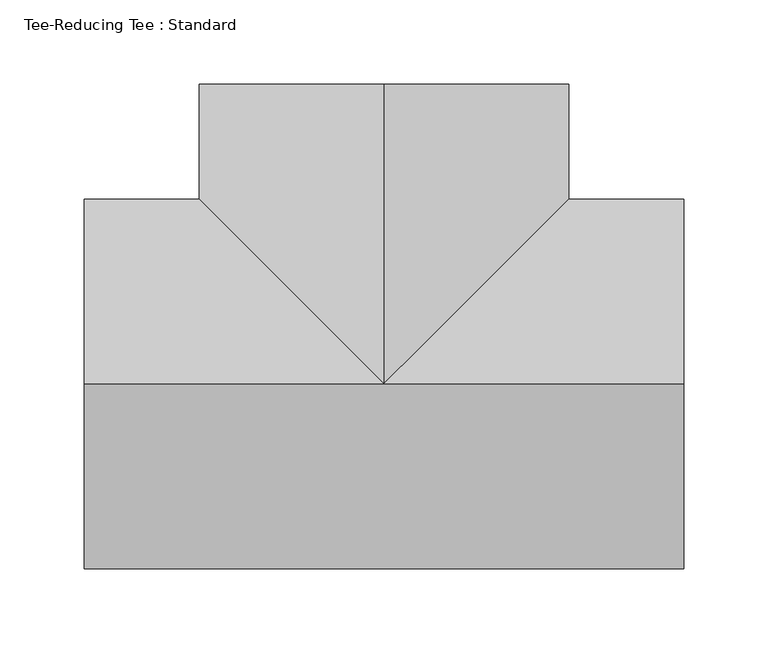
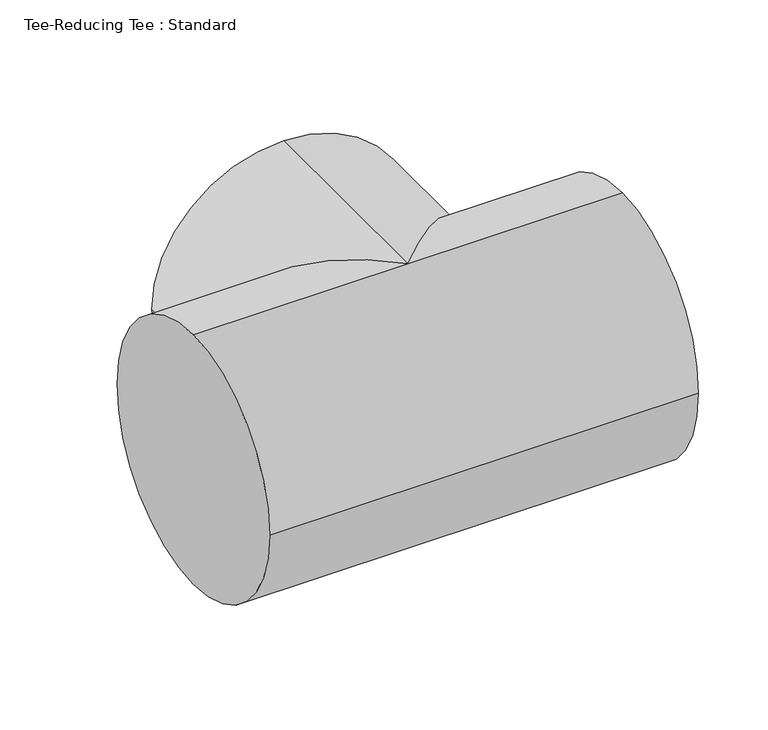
"""IFC4 building model written with IfcOpenShell, lengths in millimetres: pipe fitting geometry, Tee-Reducing Tee : Standard."""

from ifc_helpers import new_model, si_unit, frame, origin, place, context, project, spatial, circle_curve, ellipse_curve, source, transform, mapped, element, save
from ifc_brep_helpers import plane_surface, cylinder_surface, advanced_brep


def tee_reducing_tee_standard_f879563b(model_context):
    return source(origin(), model_context, "Body", "AdvancedBrep", [
        advanced_brep(
        [(-155.7746149, 0.0, 109.5375), (-155.7746149, 109.5375, 0.0), (-155.7746149, 0.0, -109.5375), (-155.7746149, -109.5375, 0.0), (199.8253851, 0.0, 109.5375), (199.8253851, -109.5375, 0.0), (199.8253851, 0.0, -109.5375), (199.8253851, 109.5375, 0.0), (22.0253851, 0.0, 109.5375), (-87.5121149, 109.5375, 0.0), (131.5628851, 109.5375, 0.0), (22.0253851, 0.0, -109.5375), (22.0253851, 177.8, 109.5375), (131.5628851, 177.8, 0.0), (22.0253851, 177.8, -109.5375), (-87.5121149, 177.8, 0.0)],
        [
            (0, 1, circle_curve(frame((-155.7746149, 0.0, 0.0), z_axis=(-1.0, 0.0, 0.0), x_axis=(0.0, 1.0, 0.0)), 109.5375)),
            (1, 2, circle_curve(frame((-155.7746149, 0.0, 0.0), z_axis=(-1.0, 0.0, 0.0), x_axis=(0.0, 1.0, 0.0)), 109.5375)),
            (2, 3, circle_curve(frame((-155.7746149, 0.0, 0.0), z_axis=(-1.0, 0.0, 0.0), x_axis=(0.0, 1.0, 0.0)), 109.5375)),
            (3, 0, circle_curve(frame((-155.7746149, 0.0, 0.0), z_axis=(-1.0, 0.0, 0.0), x_axis=(0.0, 1.0, 0.0)), 109.5375)),
            (4, 5, circle_curve(frame((199.8253851, 0.0, 0.0), z_axis=(1.0, 0.0, 0.0), x_axis=(0.0, 1.0, 0.0)), 109.5375)),
            (5, 6, circle_curve(frame((199.8253851, 0.0, 0.0), z_axis=(1.0, 0.0, 0.0), x_axis=(0.0, 1.0, 0.0)), 109.5375)),
            (6, 7, circle_curve(frame((199.8253851, 0.0, 0.0), z_axis=(1.0, 0.0, 0.0), x_axis=(0.0, 1.0, 0.0)), 109.5375)),
            (7, 4, circle_curve(frame((199.8253851, 0.0, 0.0), z_axis=(1.0, 0.0, 0.0), x_axis=(0.0, 1.0, 0.0)), 109.5375)),
            (0, 8),
            (8, 9, ellipse_curve(frame((22.0253851, 0.0, 0.0), z_axis=(-0.7071067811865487, -0.7071067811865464, 0.0), x_axis=(-0.7071067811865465, 0.7071067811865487, 0.0)), 154.9094181, 109.5375)),
            (9, 1),
            (7, 10),
            (10, 8, ellipse_curve(frame((22.0253851, 0.0, 0.0), z_axis=(0.7071067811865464, -0.7071067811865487, 0.0), x_axis=(-0.7071067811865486, -0.7071067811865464, 0.0)), 154.9094181, 109.5375)),
            (8, 4),
            (9, 11, ellipse_curve(frame((22.0253851, 0.0, 0.0), z_axis=(-0.7071067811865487, -0.7071067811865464, 0.0), x_axis=(-0.7071067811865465, 0.7071067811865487, 0.0)), 154.9094181, 109.5375)),
            (11, 2),
            (6, 11),
            (11, 10, ellipse_curve(frame((22.0253851, 0.0, 0.0), z_axis=(0.7071067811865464, -0.7071067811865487, 0.0), x_axis=(-0.7071067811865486, -0.7071067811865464, 0.0)), 154.9094181, 109.5375)),
            (5, 3),
            (12, 13, circle_curve(frame((22.0253851, 177.8, 0.0), z_axis=(0.0, 1.0, 0.0), x_axis=(-1.0, 0.0, 0.0)), 109.5375)),
            (13, 14, circle_curve(frame((22.0253851, 177.8, 0.0), z_axis=(0.0, 1.0, 0.0), x_axis=(-1.0, 0.0, 0.0)), 109.5375)),
            (14, 15, circle_curve(frame((22.0253851, 177.8, 0.0), z_axis=(0.0, 1.0, 0.0), x_axis=(-1.0, 0.0, 0.0)), 109.5375)),
            (15, 12, circle_curve(frame((22.0253851, 177.8, 0.0), z_axis=(0.0, 1.0, 0.0), x_axis=(-1.0, 0.0, 0.0)), 109.5375)),
            (15, 9),
            (8, 12),
            (14, 11),
            (13, 10),
        ],
        [
            plane_surface(frame((-155.7746149, 0.0, 0.0), z_axis=(-1.0, 0.0, 0.0), x_axis=(0.0, 0.0, 1.0))),
            plane_surface(frame((199.8253851, 0.0, 0.0), z_axis=(1.0, 0.0, 0.0), x_axis=(0.0, 0.0, 1.0))),
            cylinder_surface(frame((-155.7746149, 0.0, 0.0), z_axis=(-1.0, 0.0, 0.0), x_axis=(0.0, 1.0, 0.0)), 109.5375),
            plane_surface(frame((22.0253851, 177.8, 0.0), z_axis=(0.0, 1.0, 0.0), x_axis=(0.0, 0.0, 1.0))),
            cylinder_surface(frame((22.0253851, 0.0, 0.0), z_axis=(0.0, -1.0, 0.0), x_axis=(-1.0, 0.0, 0.0)), 109.5375),
        ],
        [
            (0, [[1, 2, 3, 4]]),
            (1, [[5, 6, 7, 8]]),
            (2, [[-1, 9, 10, 11]]),
            (2, [[-8, 12, 13, 14]]),
            (2, [[-2, -11, 15, 16]]),
            (2, [[-7, 17, 18, -12]]),
            (2, [[-3, -16, -17, -6, 19]]),
            (2, [[-4, -19, -5, -14, -9]]),
            (3, [[20, 21, 22, 23]]),
            (4, [[-23, 24, -10, 25]]),
            (4, [[-22, 26, -15, -24]]),
            (4, [[-21, 27, -18, -26]]),
            (4, [[-20, -25, -13, -27]]),
        ],
    ),
    ])


if __name__ == "__main__":
    model = new_model("IFC4")
    model_context = context("Model", 3, world=origin())
    ifc_project = project(units=[si_unit("LENGTHUNIT", "METRE", prefix="MILLI")], contexts=[model_context])
    site = spatial("IfcSite", under=ifc_project)
    building = spatial("IfcBuilding", under=site)
    placement = place(None, origin())
    tee_reducing_tee_standard_shape = tee_reducing_tee_standard_f879563b(model_context)
    element("IfcPipeFitting", 1, ObjectType="Tee-Reducing Tee : Standard", at=placement, inside=building, context=model_context, shape_type="MappedRepresentation", body=[
        mapped(tee_reducing_tee_standard_shape, transform((0.0, 0.0, 0.0), x_axis=(1.0, 0.0, 0.0), y_axis=(0.0, 1.0, 0.0), z_axis=(0.0, 0.0, 1.0))),
    ])
    save(model, "model.ifc")
